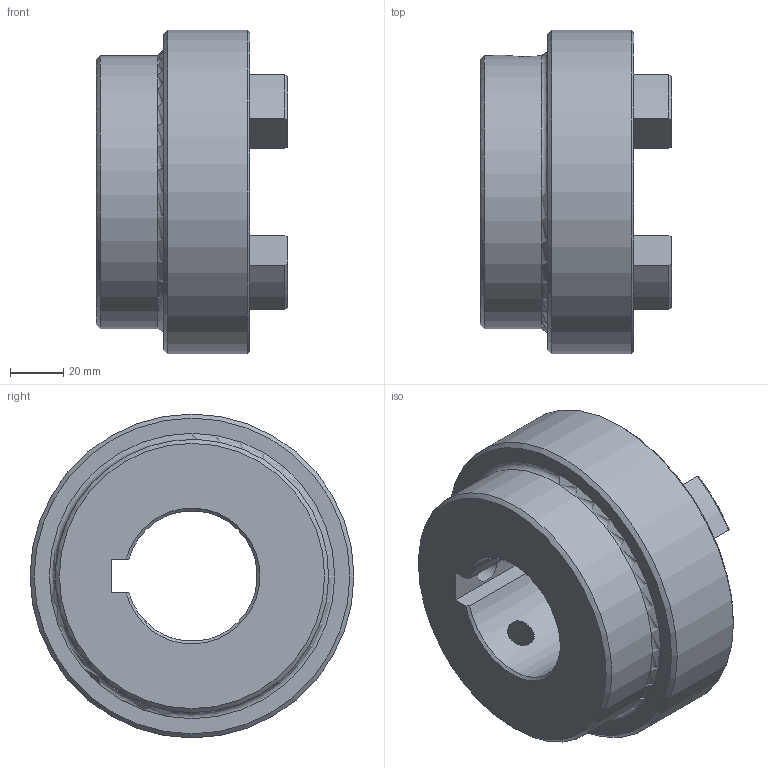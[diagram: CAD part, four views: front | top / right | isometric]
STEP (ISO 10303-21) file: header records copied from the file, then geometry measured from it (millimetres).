
FILE_DESCRIPTION (( 'STEP AP203' ), '1' );
FILE_NAME ('RC5.step', '2024-07-25T13:38:00', ( 'Adlan' ), ( '' ), 'SwSTEP 2.0', 'SolidWorks 2013', '' );
FILE_SCHEMA (( 'CONFIG_CONTROL_DESIGN' ));
Length unit declared in the file: inch
Products named in the file (1): RC5
Bounding box: 72.14 x 122.17 x 122.17 mm (x, y, z)
Volume: 393663.7 mm3; surface area: 59848 mm2
Topology: 1 solids, 1 shells, 85 faces, 224 edges, 141 vertices
Faces by surface type: cylinder 33, plane 21, torus 17, cone 14
Full cylindrical faces by diameter (mm): 10.716 x2, 103.124 x1, 122.174 x1
Entity records: 2893 total; most frequent: CARTESIAN_POINT 742, DIRECTION 456, ORIENTED_EDGE 416, EDGE_CURVE 208, AXIS2_PLACEMENT_3D 183, VERTEX_POINT 135, EDGE_LOOP 101, CIRCLE 97
